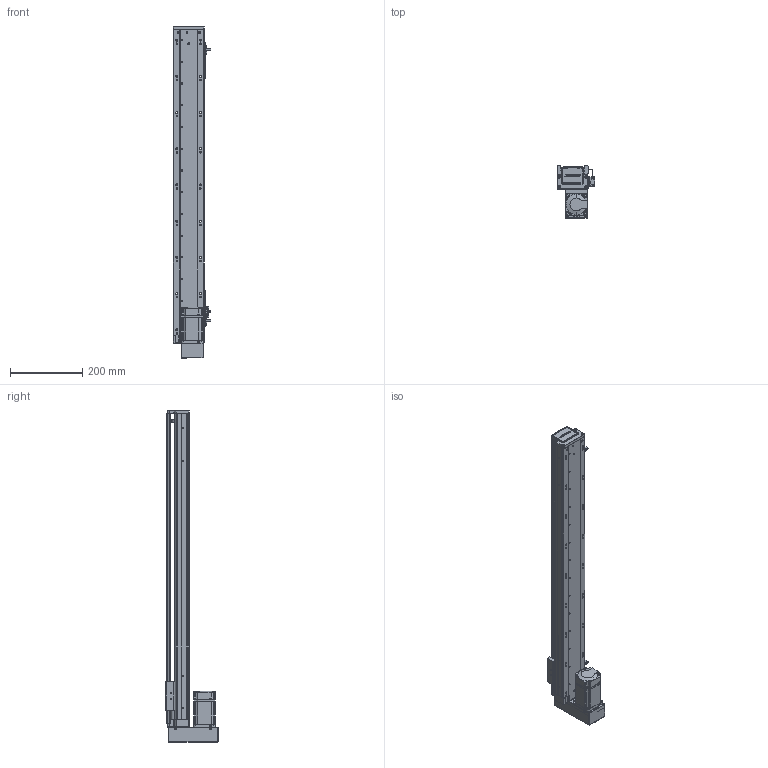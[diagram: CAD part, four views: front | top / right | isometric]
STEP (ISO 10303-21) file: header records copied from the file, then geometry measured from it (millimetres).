
FILE_DESCRIPTION (( 'STEP AP203' ), '1' );
FILE_NAME ('RY80-L1620-300-BK.SLDASM_700.step', '2021-02-20T07:10:58', ( '盈信电脑' ), ( '东莞市道滘镇水果街19号' ), 'SwSTEP 2.0', 'SolidWorks 2012', '' );
FILE_SCHEMA (( 'CONFIG_CONTROL_DESIGN' ));
Length unit declared in the file: millimetre
Products named in the file (15): RY80-L1620-300-BK.SLDASM_700; 侂狟200W萇儂; RY80狟殏俋欶; RY80狟殏萇儂假蚾啣; 滅袉蝶18-24; RY80俋离覜茼え; 覜茼ん672; 1; RY80转接电机端支撑座; RY80綴裔啣; T倰羞; 滅袉蝶18-10; RY80-300蛌諉倰第菁釱-BK_700; RY80臏賑輸; RY80-300蛌諉倰第奻裔啣-BK_700
Assembly tree (17 placements, depth 3):
  RY80-L1620-300-BK.SLDASM_700
    RY80-300蛌諉倰第菁釱-BK_700
    RY80臏賑輸
    RY80-300蛌諉倰第奻裔啣-BK_700
    RY80綴裔啣
    滅袉蝶18-10
    T倰羞  x2
    覜茼ん672  x3
    RY80俋离覜茼え
    RY80转接电机端支撑座
    侂狟200W萇儂
      1
    RY80狟殏萇儂假蚾啣
    RY80狟殏俋欶
    滅袉蝶18-24
Bounding box: 103.7 x 144 x 917 mm (x, y, z)
Volume: 1740919.9 mm3; surface area: 691171.4 mm2
Topology: 16 solids, 16 shells, 2251 faces, 6241 edges, 4047 vertices
Faces by surface type: plane 1188, cylinder 864, cone 137, bspline 62
Entity records: 72881 total; most frequent: CARTESIAN_POINT 19358, ORIENTED_EDGE 11178, DIRECTION 10260, EDGE_CURVE 5589, VERTEX_POINT 3663, AXIS2_PLACEMENT_3D 3455, LINE 3350, VECTOR 3350
